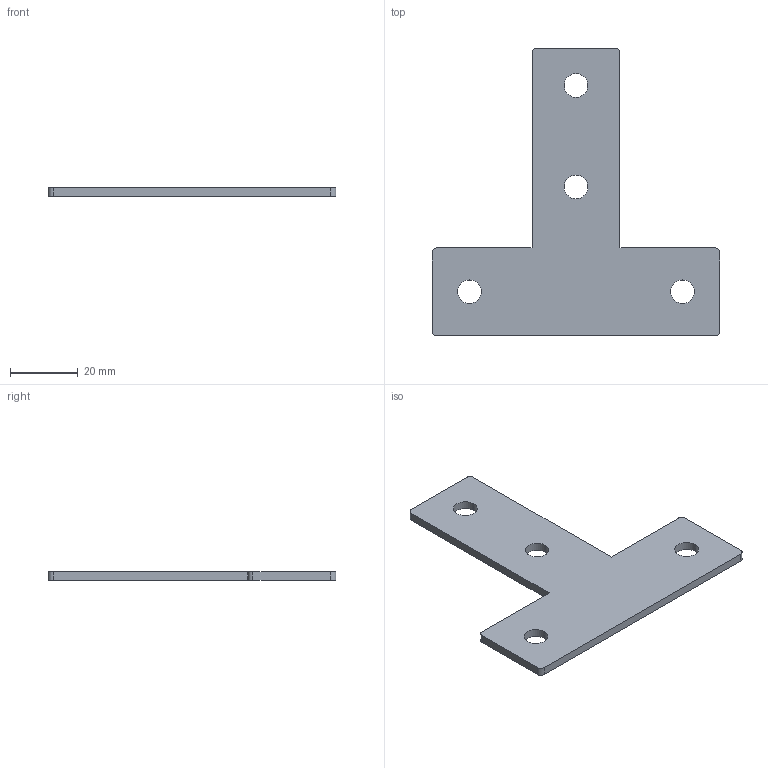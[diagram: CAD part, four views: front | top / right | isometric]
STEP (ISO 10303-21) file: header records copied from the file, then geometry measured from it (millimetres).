
FILE_DESCRIPTION (( 'STEP AP203' ), '1' );
FILE_NAME ('109-30T倰蟀諉啣.STEP', '2015-07-09T08:40:57', ( '' ), ( '' ), 'SwSTEP 2.0', 'SolidWorks 2013', '' );
FILE_SCHEMA (( 'CONFIG_CONTROL_DESIGN' ));
Length unit declared in the file: millimetre
Products named in the file (1): 109-30T倰蟀諉啣
Bounding box: 85 x 85 x 2.5 mm (x, y, z)
Volume: 8967.9 mm3; surface area: 8234.6 mm2
Topology: 1 solids, 1 shells, 24 faces, 66 edges, 44 vertices
Faces by surface type: cylinder 14, plane 10
Entity records: 871 total; most frequent: DIRECTION 144, CARTESIAN_POINT 135, ORIENTED_EDGE 132, EDGE_CURVE 66, AXIS2_PLACEMENT_3D 53, VERTEX_POINT 44, LINE 38, VECTOR 38
